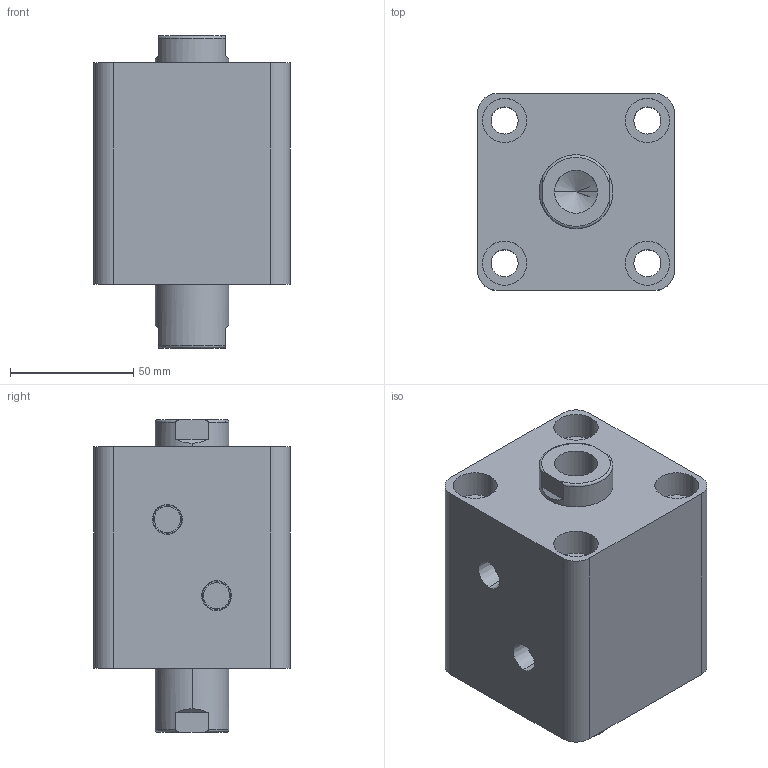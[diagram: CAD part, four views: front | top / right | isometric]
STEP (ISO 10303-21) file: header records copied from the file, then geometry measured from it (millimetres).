
FILE_DESCRIPTION (( 'STEP AP203' ), '1' );
FILE_NAME ('HTB-SW50-15N.STEP', '2019-10-07T09:17:26', ( '微软用户' ), ( '微软中国' ), 'SwSTEP 2.0', 'SolidWorks 2012', '' );
FILE_SCHEMA (( 'CONFIG_CONTROL_DESIGN' ));
Length unit declared in the file: millimetre
Products named in the file (3): HTB-SW50-15N; HTB-SW50-15N活塞杆; HTB-SW50-15掛极
Assembly tree (2 placements, depth 2):
  HTB-SW50-15N
    HTB-SW50-15掛极
    HTB-SW50-15N活塞杆
Bounding box: 80 x 80 x 127 mm (x, y, z)
Volume: 514738.2 mm3; surface area: 86326 mm2
Topology: 2 solids, 2 shells, 100 faces, 228 edges, 146 vertices
Faces by surface type: cylinder 48, plane 32, torus 12, cone 8
Entity records: 3237 total; most frequent: CARTESIAN_POINT 595, DIRECTION 542, ORIENTED_EDGE 448, AXIS2_PLACEMENT_3D 229, EDGE_CURVE 224, VERTEX_POINT 146, EDGE_LOOP 128, CIRCLE 124
